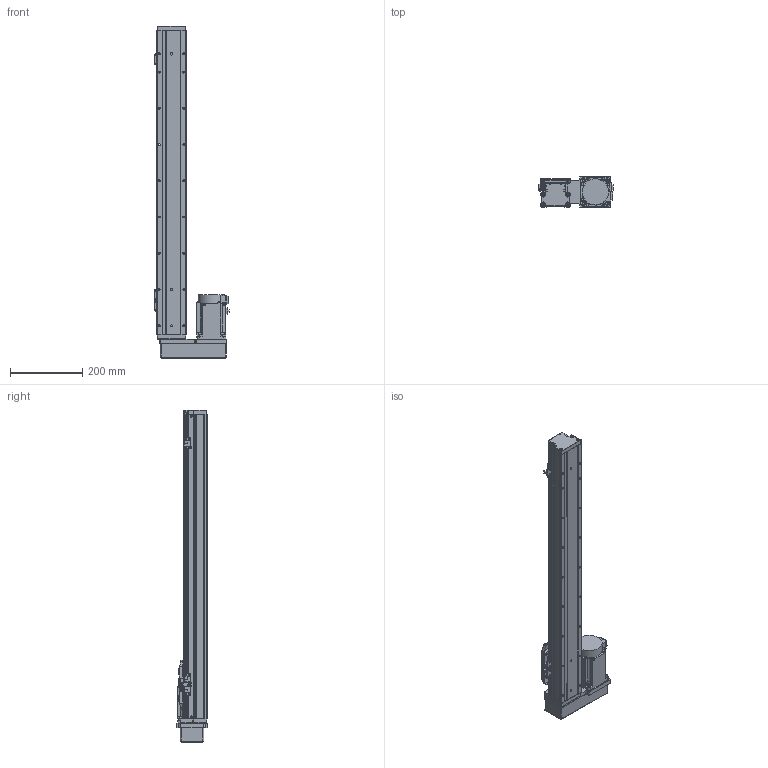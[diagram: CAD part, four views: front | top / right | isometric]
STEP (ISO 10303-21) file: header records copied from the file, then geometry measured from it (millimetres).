
FILE_DESCRIPTION (( 'STEP AP203' ), '1' );
FILE_NAME ('GTH8-650-BR-M75-C4.step', '2023-02-14T02:34:23', ( '微软用户' ), ( '微软中国' ), 'SwSTEP 2.0', 'SolidWorks 2020', '' );
FILE_SCHEMA (( 'CONFIG_CONTROL_DESIGN' ));
Length unit declared in the file: millimetre
Products named in the file (18): GTH80-003; GBT 70.1-M4×16; CTHA86-035; GTH80-004; GTH80-028; hg-kn73j_-s100; GTH80-006; GTH50-024; GTH8-650-BR-M75-C4; GTH80-013; GTH50-023; GBT 70.3-M3℅6; GBT96.1-2002 3×0.8; GTH80-022; BTH-M3X5X6; GTH80-001_650; GBT 70.1-M3℅6; CTHA86-015-3_CTHA86-015-4
Assembly tree (57 placements, depth 2):
  GTH8-650-BR-M75-C4
    GTH80-001_650
    GTH80-003
    GTH80-004
    GTH80-006
    GTH80-013
    GBT 70.3-M3℅6  x4
    GTH80-022
    GBT 70.1-M3℅6  x14
    GBT 70.1-M4×16  x8
    GTH80-028  x2
    GTH50-024  x3
    GTH50-023  x3
    GBT96.1-2002 3×0.8  x6
    BTH-M3X5X6  x8
    CTHA86-015-3_CTHA86-015-4
    CTHA86-035
    hg-kn73j_-s100
Bounding box: 204.7 x 87 x 916 mm (x, y, z)
Volume: 5182360 mm3; surface area: 522793.1 mm2
Topology: 59 solids, 59 shells, 2199 faces, 5106 edges, 3128 vertices
Faces by surface type: plane 1153, cylinder 631, cone 243, torus 158, sphere 12, bspline 2
Entity records: 39736 total; most frequent: CARTESIAN_POINT 6671, DIRECTION 6557, ORIENTED_EDGE 6022, EDGE_CURVE 3011, AXIS2_PLACEMENT_3D 2314, VECTOR 1929, LINE 1929, VERTEX_POINT 1903
